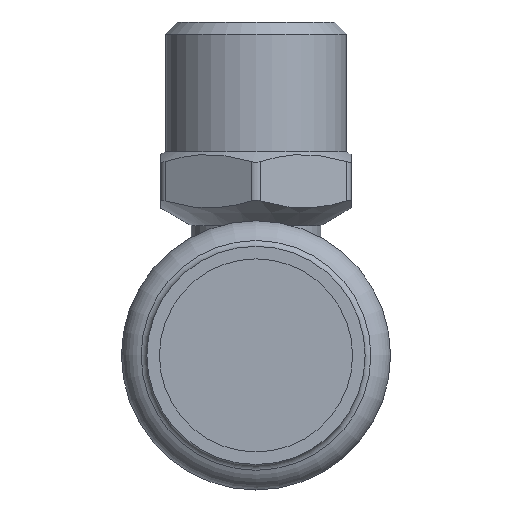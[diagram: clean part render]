
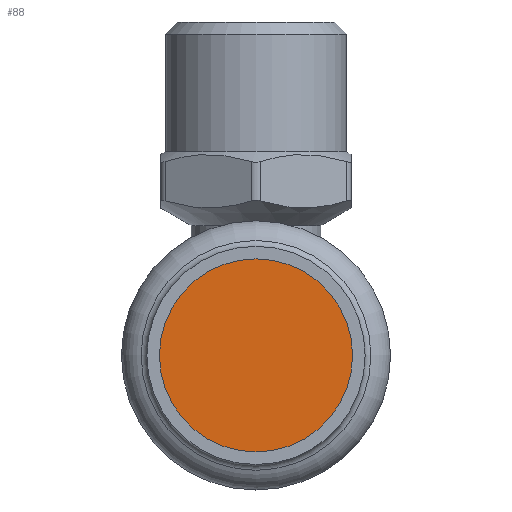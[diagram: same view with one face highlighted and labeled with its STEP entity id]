
A CAD part, front view. The second image highlights one B-rep face of the part: STEP entity #88.
In plain terms, the highlighted planar face has unit normal (0, -1, 0).
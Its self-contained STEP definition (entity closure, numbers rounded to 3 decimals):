
#88=ADVANCED_FACE('',(#381),#383,.T.);
#381=FACE_BOUND('',#382,.T.);
#382=EDGE_LOOP('',(#519));
#383=PLANE('',#384);
#384=AXIS2_PLACEMENT_3D('',#385,#386,#387);
#385=CARTESIAN_POINT('',(0.,-41.029,0.));
#386=DIRECTION('',(0.,-1.,0.));
#387=DIRECTION('',(0.,0.,-1.));
#519=ORIENTED_EDGE('',*,*,#582,.T.);
#582=EDGE_CURVE('',#694,#694,#695,.F.);
#694=VERTEX_POINT('',#1948);
#695=CIRCLE('',#1949,11.15);
#1948=CARTESIAN_POINT('',(0.,-41.029,11.15));
#1949=AXIS2_PLACEMENT_3D('',#1950,#1951,#1952);
#1950=CARTESIAN_POINT('',(0.,-41.029,0.));
#1951=DIRECTION('',(0.,1.,0.));
#1952=DIRECTION('',(0.,0.,1.));
